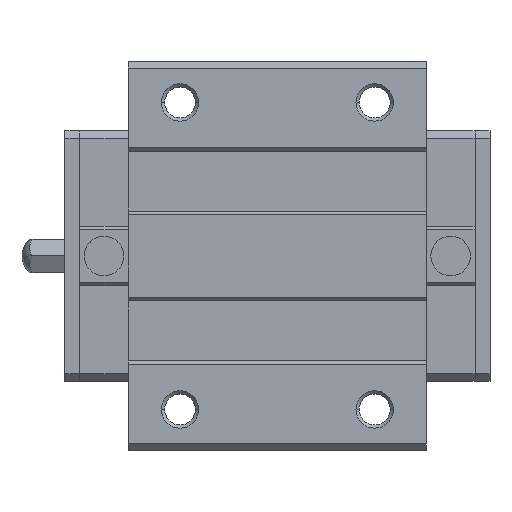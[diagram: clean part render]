
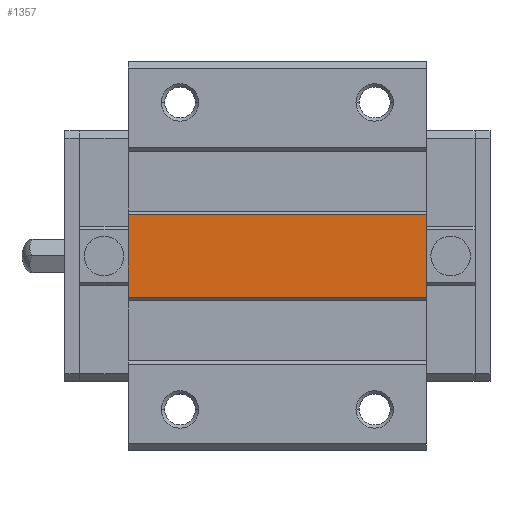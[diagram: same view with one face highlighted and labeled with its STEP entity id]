
A CAD part, top view. The second image highlights one B-rep face of the part: STEP entity #1357.
In plain terms, the highlighted planar face has unit normal (0, 0, 1).
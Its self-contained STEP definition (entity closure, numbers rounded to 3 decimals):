
#1296=CARTESIAN_POINT('POINT88',(48.3,-5.5,19.5));
#1297=VERTEX_POINT('VERTEX88',#1296);
#1304=CARTESIAN_POINT('POINT89',(8.5,-5.5,19.5));
#1305=VERTEX_POINT('VERTEX89',#1304);
#1306=CARTESIAN_POINT('POS144',(8.5,-5.5,19.5));
#1307=DIRECTION('DIR209',(1.,0.,0.));
#1308=VECTOR('VEC79',#1307,1.);
#1309=LINE('STRAIGHT79',#1306,#1308);
#1310=EDGE_CURVE('EDGE132',#1305,#1297,#1309,.T.);
#1327=CARTESIAN_POINT('POINT90',(48.3,5.5,19.5));
#1328=VERTEX_POINT('VERTEX90',#1327);
#1329=CARTESIAN_POINT('POS147',(48.3,5.5,19.5));
#1330=DIRECTION('DIR213',(0.,1.,0.));
#1331=VECTOR('VEC81',#1330,1.);
#1332=LINE('STRAIGHT81',#1329,#1331);
#1333=EDGE_CURVE('EDGE134',#1297,#1328,#1332,.T.);
#1334=ORIENTED_EDGE('COEDGE220',*,*,#1333,.T.);
#1335=CARTESIAN_POINT('POINT91',(8.5,5.5,19.5));
#1336=VERTEX_POINT('VERTEX91',#1335);
#1337=CARTESIAN_POINT('POS148',(8.5,5.5,19.5));
#1338=DIRECTION('DIR214',(1.,0.,0.));
#1339=VECTOR('VEC82',#1338,1.);
#1340=LINE('STRAIGHT82',#1337,#1339);
#1341=EDGE_CURVE('EDGE135',#1336,#1328,#1340,.T.);
#1342=ORIENTED_EDGE('COEDGE221',*,*,#1341,.F.);
#1343=CARTESIAN_POINT('POS149',(8.5,0.,19.5));
#1344=DIRECTION('DIR215',(0.,-1.,0.));
#1345=VECTOR('VEC83',#1344,1.);
#1346=LINE('STRAIGHT83',#1343,#1345);
#1347=EDGE_CURVE('EDGE136',#1336,#1305,#1346,.T.);
#1348=ORIENTED_EDGE('COEDGE222',*,*,#1347,.T.);
#1349=ORIENTED_EDGE('COEDGE223',*,*,#1310,.T.);
#1350=EDGE_LOOP('NONE',(#1334,#1342,#1348,#1349));
#1351=FACE_BOUND('LOOP1',#1350,.T.);
#1352=CARTESIAN_POINT('POS150',(8.5,0.,19.5));
#1353=DIRECTION('DIR216',(0.,0.,1.));
#1354=DIRECTION('DIR217',(1.,0.,0.));
#1355=AXIS2_PLACEMENT_3D('AXIS67',#1352,#1353,#1354);
#1356=PLANE('PLANE21',#1355);
#1357=ADVANCED_FACE('FACE47',(#1351),#1356,.T.);
